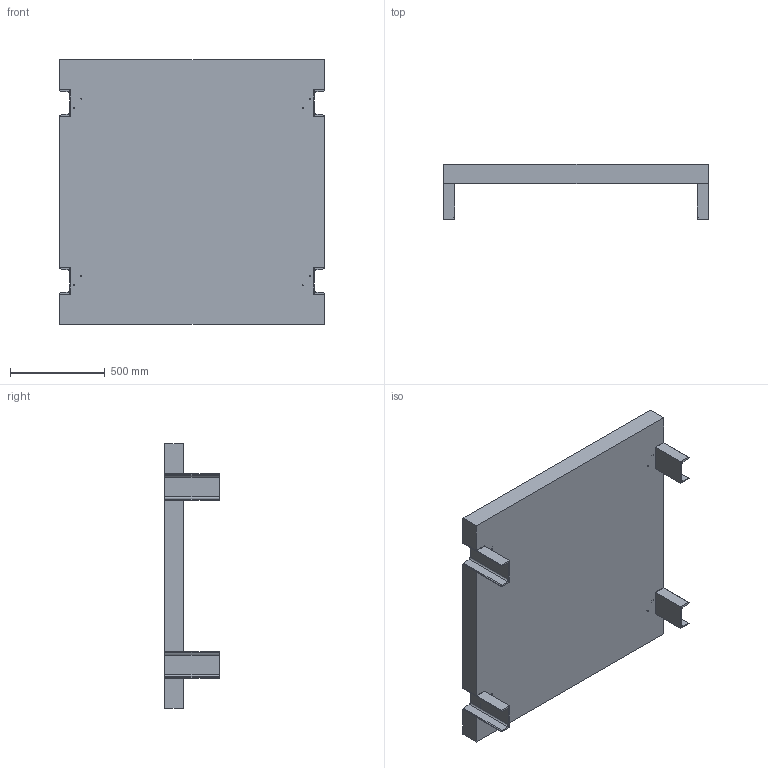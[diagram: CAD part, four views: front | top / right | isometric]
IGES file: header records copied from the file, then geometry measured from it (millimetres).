
Start section: SolidWorks IGES file using analytic representation for surfaces
Global section: file name: C:\Users\cersim\OneDrive - Gruppo Tecno\Desktop\MARKETING\T50 - 1400x1400.IGS; native system: SolidWorks 2020; preprocessor: SolidWorks 2020; author: cersim; date: 210608.093643; units: millimetre
Bounding box: 1400 x 290 x 1400 mm (x, y, z)
Surface area: 9461126 mm2 (no closed solid volume)
Topology: 0 solids, 0 shells, 340 faces, 4560 edges, 4544 vertices
Faces by surface type: bspline 188, revolution 152
